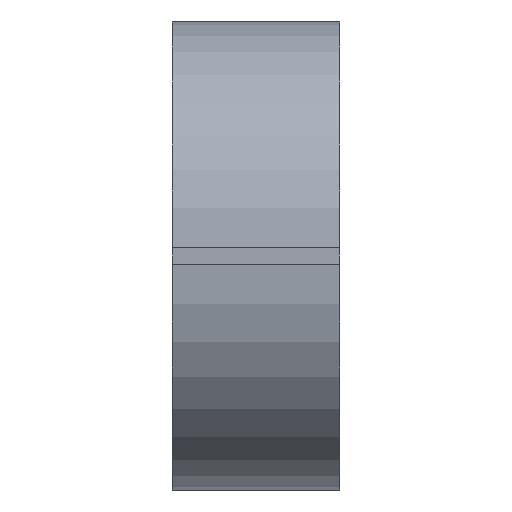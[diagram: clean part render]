
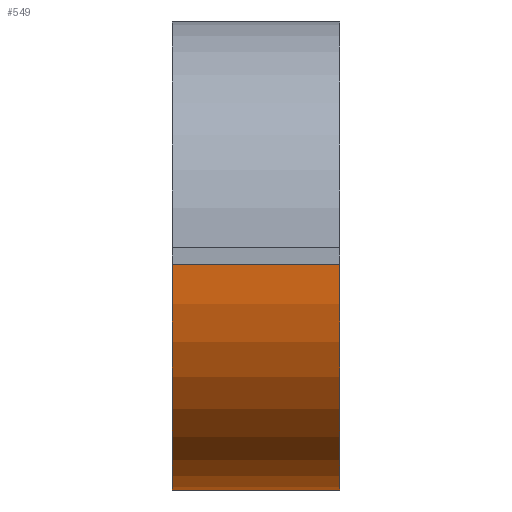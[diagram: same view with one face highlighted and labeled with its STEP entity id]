
A CAD part, left-side view. The second image highlights one B-rep face of the part: STEP entity #549.
In plain terms, the highlighted cylindrical face has radius 1.35 mm (diameter 2.7 mm), a partial arc.
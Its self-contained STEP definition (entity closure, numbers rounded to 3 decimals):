
#22 = VERTEX_POINT('',#23);
#23 = CARTESIAN_POINT('',(-10.25,-45.059,83.45));
#32 = PLANE('',#33);
#33 = AXIS2_PLACEMENT_3D('',#34,#35,#36);
#34 = CARTESIAN_POINT('',(-10.25,-45.059,82.1));
#35 = DIRECTION('',(1.,0.,-0.));
#36 = DIRECTION('',(0.,0.,1.));
#44 = PLANE('',#45);
#45 = AXIS2_PLACEMENT_3D('',#46,#47,#48);
#46 = CARTESIAN_POINT('',(-10.25,-45.059,82.1));
#47 = DIRECTION('',(-0.,1.,0.));
#48 = DIRECTION('',(0.,0.,1.));
#56 = EDGE_CURVE('',#22,#57,#59,.T.);
#57 = VERTEX_POINT('',#58);
#58 = CARTESIAN_POINT('',(-10.25,-44.059,83.45));
#59 = SURFACE_CURVE('',#60,(#64,#71),.PCURVE_S1.);
#60 = LINE('',#61,#62);
#61 = CARTESIAN_POINT('',(-10.25,-45.059,83.45));
#62 = VECTOR('',#63,1.);
#63 = DIRECTION('',(-0.,1.,0.));
#64 = PCURVE('',#32,#65);
#65 = DEFINITIONAL_REPRESENTATION('',(#66),#70);
#66 = LINE('',#67,#68);
#67 = CARTESIAN_POINT('',(1.35,0.));
#68 = VECTOR('',#69,1.);
#69 = DIRECTION('',(0.,-1.));
#70 = ( GEOMETRIC_REPRESENTATION_CONTEXT(2) 
PARAMETRIC_REPRESENTATION_CONTEXT() REPRESENTATION_CONTEXT('2D SPACE',''
  ) );
#71 = PCURVE('',#72,#77);
#72 = CYLINDRICAL_SURFACE('',#73,1.35);
#73 = AXIS2_PLACEMENT_3D('',#74,#75,#76);
#74 = CARTESIAN_POINT('',(-8.9,-45.059,83.45));
#75 = DIRECTION('',(-0.,1.,0.));
#76 = DIRECTION('',(-1.,-0.,0.));
#77 = DEFINITIONAL_REPRESENTATION('',(#78),#82);
#78 = LINE('',#79,#80);
#79 = CARTESIAN_POINT('',(-0.,0.));
#80 = VECTOR('',#81,1.);
#81 = DIRECTION('',(-0.,1.));
#82 = ( GEOMETRIC_REPRESENTATION_CONTEXT(2) 
PARAMETRIC_REPRESENTATION_CONTEXT() REPRESENTATION_CONTEXT('2D SPACE',''
  ) );
#100 = PLANE('',#101);
#101 = AXIS2_PLACEMENT_3D('',#102,#103,#104);
#102 = CARTESIAN_POINT('',(-10.25,-44.059,82.1));
#103 = DIRECTION('',(-0.,1.,0.));
#104 = DIRECTION('',(0.,0.,1.));
#142 = VERTEX_POINT('',#143);
#143 = CARTESIAN_POINT('',(-8.9,-45.059,82.1));
#159 = PLANE('',#160);
#160 = AXIS2_PLACEMENT_3D('',#161,#162,#163);
#161 = CARTESIAN_POINT('',(-10.25,-45.059,82.1));
#162 = DIRECTION('',(0.,0.,1.));
#163 = DIRECTION('',(1.,0.,-0.));
#171 = EDGE_CURVE('',#22,#142,#172,.T.);
#172 = SURFACE_CURVE('',#173,(#178,#189),.PCURVE_S1.);
#173 = CIRCLE('',#174,1.35);
#174 = AXIS2_PLACEMENT_3D('',#175,#176,#177);
#175 = CARTESIAN_POINT('',(-8.9,-45.059,83.45));
#176 = DIRECTION('',(0.,-1.,0.));
#177 = DIRECTION('',(0.,0.,1.));
#178 = PCURVE('',#44,#179);
#179 = DEFINITIONAL_REPRESENTATION('',(#180),#188);
#180 = ( BOUNDED_CURVE() B_SPLINE_CURVE(2,(#181,#182,#183,#184,#185,#186
,#187),.UNSPECIFIED.,.T.,.F.) B_SPLINE_CURVE_WITH_KNOTS((1,2,2,2,2,1),(
    -2.094,0.,2.094,4.189,6.283,
8.378),.UNSPECIFIED.) CURVE() GEOMETRIC_REPRESENTATION_ITEM() 
RATIONAL_B_SPLINE_CURVE((1.,0.5,1.,0.5,1.,0.5,1.)) REPRESENTATION_ITEM(
  '') );
#181 = CARTESIAN_POINT('',(2.7,1.35));
#182 = CARTESIAN_POINT('',(2.7,-0.988));
#183 = CARTESIAN_POINT('',(0.675,0.181));
#184 = CARTESIAN_POINT('',(-1.35,1.35));
#185 = CARTESIAN_POINT('',(0.675,2.519));
#186 = CARTESIAN_POINT('',(2.7,3.688));
#187 = CARTESIAN_POINT('',(2.7,1.35));
#188 = ( GEOMETRIC_REPRESENTATION_CONTEXT(2) 
PARAMETRIC_REPRESENTATION_CONTEXT() REPRESENTATION_CONTEXT('2D SPACE',''
  ) );
#189 = PCURVE('',#72,#190);
#190 = DEFINITIONAL_REPRESENTATION('',(#191),#195);
#191 = LINE('',#192,#193);
#192 = CARTESIAN_POINT('',(1.571,-0.));
#193 = VECTOR('',#194,1.);
#194 = DIRECTION('',(-1.,0.));
#195 = ( GEOMETRIC_REPRESENTATION_CONTEXT(2) 
PARAMETRIC_REPRESENTATION_CONTEXT() REPRESENTATION_CONTEXT('2D SPACE',''
  ) );
#549 = ADVANCED_FACE('',(#550),#72,.T.);
#550 = FACE_BOUND('',#551,.F.);
#551 = EDGE_LOOP('',(#552,#553,#576,#602));
#552 = ORIENTED_EDGE('',*,*,#171,.T.);
#553 = ORIENTED_EDGE('',*,*,#554,.T.);
#554 = EDGE_CURVE('',#142,#555,#557,.T.);
#555 = VERTEX_POINT('',#556);
#556 = CARTESIAN_POINT('',(-8.9,-44.059,82.1));
#557 = SURFACE_CURVE('',#558,(#562,#569),.PCURVE_S1.);
#558 = LINE('',#559,#560);
#559 = CARTESIAN_POINT('',(-8.9,-45.059,82.1));
#560 = VECTOR('',#561,1.);
#561 = DIRECTION('',(-0.,1.,0.));
#562 = PCURVE('',#72,#563);
#563 = DEFINITIONAL_REPRESENTATION('',(#564),#568);
#564 = LINE('',#565,#566);
#565 = CARTESIAN_POINT('',(-1.571,0.));
#566 = VECTOR('',#567,1.);
#567 = DIRECTION('',(-0.,1.));
#568 = ( GEOMETRIC_REPRESENTATION_CONTEXT(2) 
PARAMETRIC_REPRESENTATION_CONTEXT() REPRESENTATION_CONTEXT('2D SPACE',''
  ) );
#569 = PCURVE('',#159,#570);
#570 = DEFINITIONAL_REPRESENTATION('',(#571),#575);
#571 = LINE('',#572,#573);
#572 = CARTESIAN_POINT('',(1.35,0.));
#573 = VECTOR('',#574,1.);
#574 = DIRECTION('',(0.,1.));
#575 = ( GEOMETRIC_REPRESENTATION_CONTEXT(2) 
PARAMETRIC_REPRESENTATION_CONTEXT() REPRESENTATION_CONTEXT('2D SPACE',''
  ) );
#576 = ORIENTED_EDGE('',*,*,#577,.F.);
#577 = EDGE_CURVE('',#57,#555,#578,.T.);
#578 = SURFACE_CURVE('',#579,(#584,#591),.PCURVE_S1.);
#579 = CIRCLE('',#580,1.35);
#580 = AXIS2_PLACEMENT_3D('',#581,#582,#583);
#581 = CARTESIAN_POINT('',(-8.9,-44.059,83.45));
#582 = DIRECTION('',(0.,-1.,0.));
#583 = DIRECTION('',(0.,0.,1.));
#584 = PCURVE('',#72,#585);
#585 = DEFINITIONAL_REPRESENTATION('',(#586),#590);
#586 = LINE('',#587,#588);
#587 = CARTESIAN_POINT('',(1.571,1.));
#588 = VECTOR('',#589,1.);
#589 = DIRECTION('',(-1.,0.));
#590 = ( GEOMETRIC_REPRESENTATION_CONTEXT(2) 
PARAMETRIC_REPRESENTATION_CONTEXT() REPRESENTATION_CONTEXT('2D SPACE',''
  ) );
#591 = PCURVE('',#100,#592);
#592 = DEFINITIONAL_REPRESENTATION('',(#593),#601);
#593 = ( BOUNDED_CURVE() B_SPLINE_CURVE(2,(#594,#595,#596,#597,#598,#599
,#600),.UNSPECIFIED.,.T.,.F.) B_SPLINE_CURVE_WITH_KNOTS((1,2,2,2,2,1),(
    -2.094,0.,2.094,4.189,6.283,
8.378),.UNSPECIFIED.) CURVE() GEOMETRIC_REPRESENTATION_ITEM() 
RATIONAL_B_SPLINE_CURVE((1.,0.5,1.,0.5,1.,0.5,1.)) REPRESENTATION_ITEM(
  '') );
#594 = CARTESIAN_POINT('',(2.7,1.35));
#595 = CARTESIAN_POINT('',(2.7,-0.988));
#596 = CARTESIAN_POINT('',(0.675,0.181));
#597 = CARTESIAN_POINT('',(-1.35,1.35));
#598 = CARTESIAN_POINT('',(0.675,2.519));
#599 = CARTESIAN_POINT('',(2.7,3.688));
#600 = CARTESIAN_POINT('',(2.7,1.35));
#601 = ( GEOMETRIC_REPRESENTATION_CONTEXT(2) 
PARAMETRIC_REPRESENTATION_CONTEXT() REPRESENTATION_CONTEXT('2D SPACE',''
  ) );
#602 = ORIENTED_EDGE('',*,*,#56,.F.);
